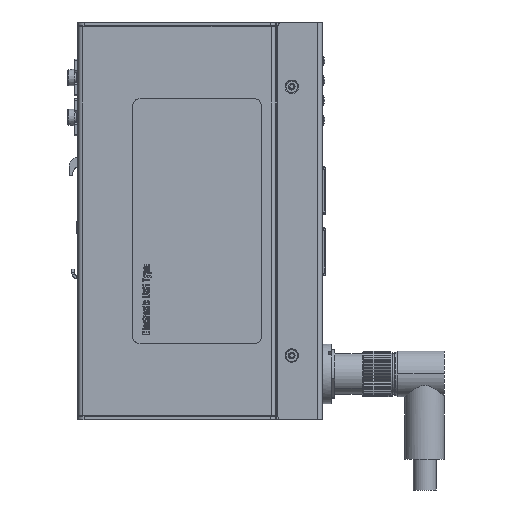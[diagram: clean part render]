
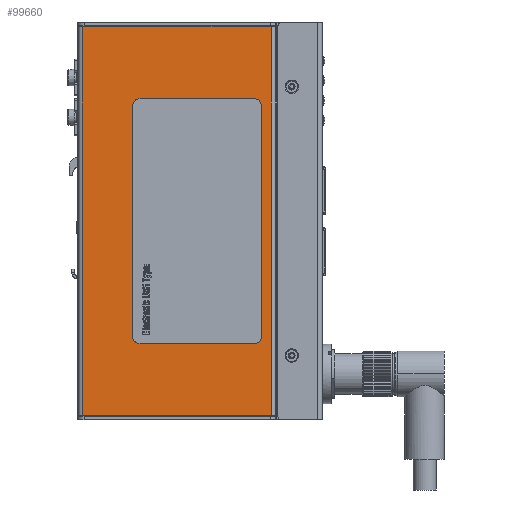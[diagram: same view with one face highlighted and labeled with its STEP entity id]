
A CAD part, front view. The second image highlights one B-rep face of the part: STEP entity #99660.
In plain terms, the highlighted planar face has unit normal (0, -1, 0).
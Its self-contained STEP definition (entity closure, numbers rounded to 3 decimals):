
#13745=DIRECTION('',(0.,0.,1.));
#13746=VECTOR('',#13745,127.2);
#13747=CARTESIAN_POINT('',(-48.211,0.,136.4));
#13748=LINE('',#13747,#13746);
#13749=DIRECTION('',(-1.,0.,0.));
#13750=VECTOR('',#13749,61.789);
#13751=CARTESIAN_POINT('',(-48.211,0.,136.4));
#13752=LINE('',#13751,#13750);
#13753=DIRECTION('',(1.,0.,0.));
#13754=VECTOR('',#13753,61.789);
#13755=CARTESIAN_POINT('',(-110.,0.,263.6));
#13756=LINE('',#13755,#13754);
#13757=DIRECTION('',(0.,0.,1.));
#13758=VECTOR('',#13757,76.);
#13759=CARTESIAN_POINT('',(-51.5,0.,162.));
#13760=LINE('',#13759,#13758);
#13761=CARTESIAN_POINT('',(-53.5,0.,238.));
#13762=DIRECTION('',(0.,1.,0.));
#13763=DIRECTION('',(0.,0.,1.));
#13764=AXIS2_PLACEMENT_3D('',#13761,#13762,#13763);
#13766=DIRECTION('',(-1.,0.,0.));
#13767=VECTOR('',#13766,38.);
#13768=CARTESIAN_POINT('',(-53.5,0.,240.));
#13769=LINE('',#13768,#13767);
#13770=CARTESIAN_POINT('',(-91.5,0.,238.));
#13771=DIRECTION('',(0.,1.,0.));
#13772=DIRECTION('',(-1.,0.,0.));
#13773=AXIS2_PLACEMENT_3D('',#13770,#13771,#13772);
#13775=DIRECTION('',(0.,0.,-1.));
#13776=VECTOR('',#13775,76.);
#13777=CARTESIAN_POINT('',(-93.5,0.,238.));
#13778=LINE('',#13777,#13776);
#13779=CARTESIAN_POINT('',(-91.5,0.,162.));
#13780=DIRECTION('',(0.,1.,0.));
#13781=DIRECTION('',(0.,0.,-1.));
#13782=AXIS2_PLACEMENT_3D('',#13779,#13780,#13781);
#13784=DIRECTION('',(1.,0.,0.));
#13785=VECTOR('',#13784,38.);
#13786=CARTESIAN_POINT('',(-91.5,0.,160.));
#13787=LINE('',#13786,#13785);
#13788=CARTESIAN_POINT('',(-53.5,0.,162.));
#13789=DIRECTION('',(0.,1.,0.));
#13790=DIRECTION('',(1.,0.,0.));
#13791=AXIS2_PLACEMENT_3D('',#13788,#13789,#13790);
#14940=DIRECTION('',(0.,0.,1.));
#14941=VECTOR('',#14940,127.2);
#14942=CARTESIAN_POINT('',(-110.,0.,136.4));
#14943=LINE('',#14942,#14941);
#66609=CARTESIAN_POINT('',(-110.,0.,263.6));
#66610=VERTEX_POINT('',#66609);
#66611=CARTESIAN_POINT('',(-110.,0.,136.4));
#66612=VERTEX_POINT('',#66611);
#66733=CARTESIAN_POINT('',(-48.211,0.,263.6));
#66735=VERTEX_POINT('',#66733);
#66743=CARTESIAN_POINT('',(-48.211,0.,136.4));
#66744=VERTEX_POINT('',#66743);
#81503=CARTESIAN_POINT('',(-51.5,0.,162.));
#81504=CARTESIAN_POINT('',(-51.5,0.,238.));
#81505=VERTEX_POINT('',#81503);
#81506=VERTEX_POINT('',#81504);
#81507=CARTESIAN_POINT('',(-53.5,0.,240.));
#81508=CARTESIAN_POINT('',(-91.5,0.,240.));
#81509=VERTEX_POINT('',#81507);
#81510=VERTEX_POINT('',#81508);
#81511=CARTESIAN_POINT('',(-93.5,0.,238.));
#81512=CARTESIAN_POINT('',(-93.5,0.,162.));
#81513=VERTEX_POINT('',#81511);
#81514=VERTEX_POINT('',#81512);
#81515=CARTESIAN_POINT('',(-91.5,0.,160.));
#81516=CARTESIAN_POINT('',(-53.5,0.,160.));
#81517=VERTEX_POINT('',#81515);
#81518=VERTEX_POINT('',#81516);
#99629=CARTESIAN_POINT('',(-111.5,0.,200.));
#99630=DIRECTION('',(0.,1.,0.));
#99631=DIRECTION('',(0.,0.,-1.));
#99632=AXIS2_PLACEMENT_3D('',#99629,#99630,#99631);
#99633=PLANE('',#99632);
#99634=ORIENTED_EDGE('',*,*,#99603,.F.);
#99636=ORIENTED_EDGE('',*,*,#99635,.T.);
#99638=ORIENTED_EDGE('',*,*,#99637,.T.);
#99639=ORIENTED_EDGE('',*,*,#99614,.T.);
#99640=EDGE_LOOP('',(#99634,#99636,#99638,#99639));
#99641=FACE_OUTER_BOUND('',#99640,.F.);
#99643=ORIENTED_EDGE('',*,*,#99642,.T.);
#99645=ORIENTED_EDGE('',*,*,#99644,.F.);
#99647=ORIENTED_EDGE('',*,*,#99646,.T.);
#99649=ORIENTED_EDGE('',*,*,#99648,.F.);
#99651=ORIENTED_EDGE('',*,*,#99650,.T.);
#99653=ORIENTED_EDGE('',*,*,#99652,.F.);
#99655=ORIENTED_EDGE('',*,*,#99654,.T.);
#99657=ORIENTED_EDGE('',*,*,#99656,.F.);
#99658=EDGE_LOOP('',(#99643,#99645,#99647,#99649,#99651,#99653,#99655,#99657));
#99659=FACE_BOUND('',#99658,.F.);
#99660=ADVANCED_FACE('',(#99641,#99659),#99633,.F.);
#13765=CIRCLE('',#13764,2.);
#13774=CIRCLE('',#13773,2.);
#13783=CIRCLE('',#13782,2.);
#13792=CIRCLE('',#13791,2.);
#99603=EDGE_CURVE('',#66744,#66735,#13748,.T.);
#99614=EDGE_CURVE('',#66610,#66735,#13756,.T.);
#99635=EDGE_CURVE('',#66744,#66612,#13752,.T.);
#99637=EDGE_CURVE('',#66612,#66610,#14943,.T.);
#99642=EDGE_CURVE('',#81505,#81506,#13760,.T.);
#99644=EDGE_CURVE('',#81509,#81506,#13765,.T.);
#99646=EDGE_CURVE('',#81509,#81510,#13769,.T.);
#99648=EDGE_CURVE('',#81513,#81510,#13774,.T.);
#99650=EDGE_CURVE('',#81513,#81514,#13778,.T.);
#99652=EDGE_CURVE('',#81517,#81514,#13783,.T.);
#99654=EDGE_CURVE('',#81517,#81518,#13787,.T.);
#99656=EDGE_CURVE('',#81505,#81518,#13792,.T.);
